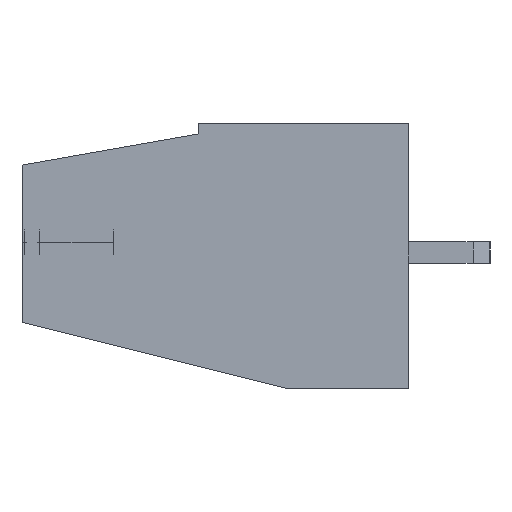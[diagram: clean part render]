
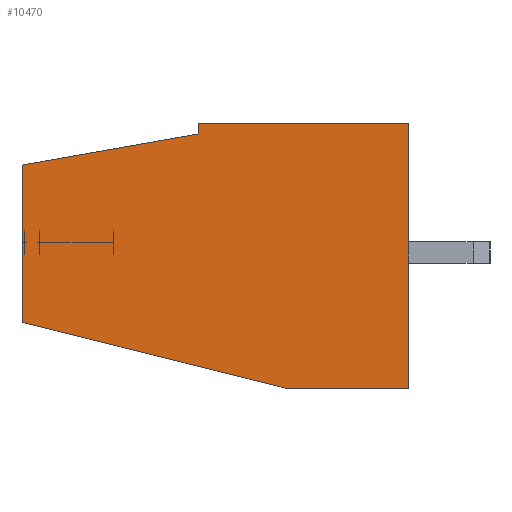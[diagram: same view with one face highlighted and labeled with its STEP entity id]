
A CAD part, left-side view. The second image highlights one B-rep face of the part: STEP entity #10470.
In plain terms, the highlighted planar face has unit normal (-1, 0, 0).
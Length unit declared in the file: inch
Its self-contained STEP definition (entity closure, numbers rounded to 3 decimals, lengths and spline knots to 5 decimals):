
#1=DIRECTION('',(0.,0.,1.));
#2=VECTOR('',#1,0.015);
#3=CARTESIAN_POINT('',(-1.9,0.,0.16));
#4=LINE('',#3,#2);
#5=DIRECTION('',(0.,-1.,0.));
#6=VECTOR('',#5,0.31);
#7=CARTESIAN_POINT('',(-1.9,0.,0.175));
#8=LINE('',#7,#6);
#9=DIRECTION('',(0.,0.,-1.));
#10=VECTOR('',#9,0.39);
#11=CARTESIAN_POINT('',(-1.9,-0.31,0.175));
#12=LINE('',#11,#10);
#13=DIRECTION('',(0.,1.,0.));
#14=VECTOR('',#13,0.18);
#15=CARTESIAN_POINT('',(-1.9,-0.31,-0.215));
#16=LINE('',#15,#14);
#17=DIRECTION('',(0.,0.97,0.242));
#18=VECTOR('',#17,0.40194);
#19=CARTESIAN_POINT('',(-1.9,-0.13,-0.215));
#20=LINE('',#19,#18);
#21=DIRECTION('',(0.,0.,1.));
#22=VECTOR('',#21,0.23192);
#23=CARTESIAN_POINT('',(-1.9,0.26,-0.11776));
#24=LINE('',#23,#22);
#25=DIRECTION('',(0.,-0.985,0.174));
#26=VECTOR('',#25,0.26401);
#27=CARTESIAN_POINT('',(-1.9,0.26,0.11415));
#28=LINE('',#27,#26);
#8293=CARTESIAN_POINT('',(-1.9,0.,0.16));
#8294=CARTESIAN_POINT('',(-1.9,0.,0.175));
#8295=VERTEX_POINT('',#8293);
#8296=VERTEX_POINT('',#8294);
#8297=CARTESIAN_POINT('',(-1.9,-0.31,0.175));
#8298=VERTEX_POINT('',#8297);
#8299=CARTESIAN_POINT('',(-1.9,-0.31,-0.215));
#8300=VERTEX_POINT('',#8299);
#8301=CARTESIAN_POINT('',(-1.9,-0.13,-0.215));
#8302=VERTEX_POINT('',#8301);
#8303=CARTESIAN_POINT('',(-1.9,0.26,-0.11776));
#8304=VERTEX_POINT('',#8303);
#8305=CARTESIAN_POINT('',(-1.9,0.26,0.11415));
#8306=VERTEX_POINT('',#8305);
#10449=CARTESIAN_POINT('',(-1.9,0.,0.));
#10450=DIRECTION('',(1.,0.,0.));
#10451=DIRECTION('',(0.,0.,-1.));
#10452=AXIS2_PLACEMENT_3D('',#10449,#10450,#10451);
#10453=PLANE('',#10452);
#10455=ORIENTED_EDGE('',*,*,#10454,.T.);
#10457=ORIENTED_EDGE('',*,*,#10456,.T.);
#10459=ORIENTED_EDGE('',*,*,#10458,.T.);
#10461=ORIENTED_EDGE('',*,*,#10460,.T.);
#10463=ORIENTED_EDGE('',*,*,#10462,.T.);
#10465=ORIENTED_EDGE('',*,*,#10464,.T.);
#10467=ORIENTED_EDGE('',*,*,#10466,.T.);
#10468=EDGE_LOOP('',(#10455,#10457,#10459,#10461,#10463,#10465,#10467));
#10469=FACE_OUTER_BOUND('',#10468,.F.);
#10470=ADVANCED_FACE('',(#10469),#10453,.F.);
#10454=EDGE_CURVE('',#8295,#8296,#4,.T.);
#10456=EDGE_CURVE('',#8296,#8298,#8,.T.);
#10458=EDGE_CURVE('',#8298,#8300,#12,.T.);
#10460=EDGE_CURVE('',#8300,#8302,#16,.T.);
#10462=EDGE_CURVE('',#8302,#8304,#20,.T.);
#10464=EDGE_CURVE('',#8304,#8306,#24,.T.);
#10466=EDGE_CURVE('',#8306,#8295,#28,.T.);
